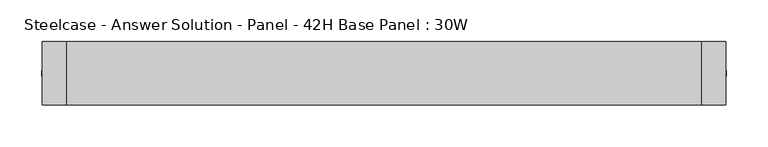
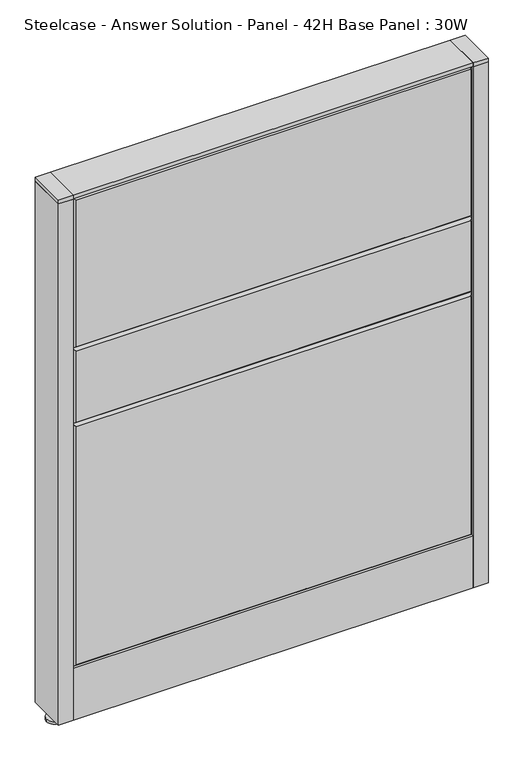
"""IFC4 building model written with IfcOpenShell, lengths in millimetres: furniture geometry, Steelcase - Answer Solution - Panel - 42H Base Panel : 30W."""

from ifc_helpers import new_model, si_unit, point, frame, frame_2d, origin, place, context, project, spatial, polyline, circle_curve, trimmed, segment, composite_curve, outline, extrude, faceted_brep, source, transform, mapped, element, save


def steelcase_answer_solution_panel_42h_base_panel_30w_ffa690a1(model_context):
    return source(origin(), model_context, "Body", "SolidModel", [
        extrude(outline(composite_curve([segment(trimmed(circle_curve(frame_2d((395.224, 0.0039657)), 5.08), [point((400.304, 0.0039657))], [point((390.144, 0.0039657))], False, "CARTESIAN"), True, "CONTINUOUS"), segment(trimmed(circle_curve(frame_2d((395.224, 0.0039657)), 5.08), [point((390.144, 0.0039657))], [point((400.304, 0.0039657))], False, "CARTESIAN"), True, "CONTINUOUS")], self_intersect=False)), frame((0.0, 0.0, 5.0799671), z_axis=(0.0, 0.0, 1.0), x_axis=(1.0, 0.0, 0.0)), (0.0, 0.0, 1.0), 10.414),
        extrude(outline(composite_curve([segment(trimmed(circle_curve(frame_2d((395.224, 0.0039657)), 15.24), [point((410.464, 0.0039657))], [point((379.984, 0.0039657))], False, "CARTESIAN"), True, "CONTINUOUS"), segment(trimmed(circle_curve(frame_2d((395.224, 0.0039657)), 15.24), [point((379.984, 0.0039657))], [point((410.464, 0.0039657))], False, "CARTESIAN"), True, "CONTINUOUS")], self_intersect=False)), frame((0.0, 0.0, -3.29e-05), z_axis=(0.0, 0.0, 1.0), x_axis=(1.0, 0.0, 0.0)), (0.0, 0.0, 1.0), 5.08),
        extrude(outline(polyline([(409.575, 38.1039851), (409.575, -38.0960149), (381.0, -38.0960149), (381.0, 38.1039851), (409.575, 38.1039851)])), frame((0.0, 0.0, 1065.8348), z_axis=(0.0, 0.0, 1.0), x_axis=(1.0, 0.0, 0.0)), (0.0, 0.0, 1.0), 7.3151671),
        extrude(outline(polyline([(409.575, 38.1039851), (409.575, -38.0960149), (381.0, -38.0960149), (381.0, 38.1039851), (409.575, 38.1039851)])), frame((0.0, 0.0, 15.4939671), z_axis=(0.0, 0.0, 1.0), x_axis=(1.0, 0.0, 0.0)), (0.0, 0.0, 1.0), 1050.3408329),
        extrude(outline(composite_curve([segment(trimmed(circle_curve(frame_2d((-395.224, 0.0039657)), 5.08), [point((-400.304, 0.0039657))], [point((-390.144, 0.0039657))], False, "CARTESIAN"), True, "CONTINUOUS"), segment(trimmed(circle_curve(frame_2d((-395.224, 0.0039657)), 5.08), [point((-390.144, 0.0039657))], [point((-400.304, 0.0039657))], False, "CARTESIAN"), True, "CONTINUOUS")], self_intersect=False)), frame((0.0, 0.0, 5.0799671), z_axis=(0.0, 0.0, 1.0), x_axis=(1.0, 0.0, 0.0)), (0.0, 0.0, 1.0), 10.414),
        extrude(outline(composite_curve([segment(trimmed(circle_curve(frame_2d((-395.224, 0.0039657)), 15.24), [point((-410.464, 0.0039657))], [point((-379.984, 0.0039657))], False, "CARTESIAN"), True, "CONTINUOUS"), segment(trimmed(circle_curve(frame_2d((-395.224, 0.0039657)), 15.24), [point((-379.984, 0.0039657))], [point((-410.464, 0.0039657))], False, "CARTESIAN"), True, "CONTINUOUS")], self_intersect=False)), frame((0.0, 0.0, -3.29e-05), z_axis=(0.0, 0.0, 1.0), x_axis=(1.0, 0.0, 0.0)), (0.0, 0.0, 1.0), 5.08),
        extrude(outline(polyline([(-409.575, 38.1039851), (-381.0, 38.1039851), (-381.0, -38.0960149), (-409.575, -38.0960149), (-409.575, 38.1039851)])), frame((0.0, 0.0, 1065.8348), z_axis=(0.0, 0.0, 1.0), x_axis=(1.0, 0.0, 0.0)), (0.0, 0.0, 1.0), 7.3151671),
        extrude(outline(polyline([(-409.575, 38.1039851), (-381.0, 38.1039851), (-381.0, -38.0960149), (-409.575, -38.0960149), (-409.575, 38.1039851)])), frame((0.0, 0.0, 15.4939671), z_axis=(0.0, 0.0, 1.0), x_axis=(1.0, 0.0, 0.0)), (0.0, 0.0, 1.0), 1050.3408329),
        faceted_brep([(-376.174, 38.1635011, 1061.974), (376.174, 38.1635011, 1061.974), (376.174, 38.1635011, 766.826), (-376.174, 38.1635011, 766.826), (-381.0, 33.3375011, 1066.8), (-381.0, 33.3375011, 762.0), (381.0, 33.3375011, 762.0), (381.0, 33.3375011, 1066.8)], [[[0, 1, 2, 3]], [[4, 5, 6, 7]], [[4, 7, 1, 0]], [[7, 6, 2, 1]], [[6, 5, 3, 2]], [[5, 4, 0, 3]]]),
        faceted_brep([(-376.174, 38.1635011, 757.174), (376.174, 38.1635011, 757.174), (376.174, 38.1635011, 614.426), (-376.174, 38.1635011, 614.426), (-381.0, 33.3375011, 762.0), (-381.0, 33.3375011, 609.6), (381.0, 33.3375011, 609.6), (381.0, 33.3375011, 762.0)], [[[0, 1, 2, 3]], [[4, 5, 6, 7]], [[4, 7, 1, 0]], [[7, 6, 2, 1]], [[6, 5, 3, 2]], [[5, 4, 0, 3]]]),
        faceted_brep([(-376.174, 38.1635011, 604.774), (376.174, 38.1635011, 604.774), (376.174, 38.1635011, 125.476), (-376.174, 38.1635011, 125.476), (-381.0, 33.3375011, 609.6), (-381.0, 33.3375011, 120.65), (381.0, 33.3375011, 120.65), (381.0, 33.3375011, 609.6)], [[[0, 1, 2, 3]], [[4, 5, 6, 7]], [[4, 7, 1, 0]], [[7, 6, 2, 1]], [[6, 5, 3, 2]], [[5, 4, 0, 3]]]),
        faceted_brep([(376.174, -38.1635011, 1061.974), (-376.174, -38.1635011, 1061.974), (-376.174, -38.1635011, 766.826), (376.174, -38.1635011, 766.826), (381.0, -33.3375011, 1066.8), (381.0, -33.3375011, 762.0), (-381.0, -33.3375011, 762.0), (-381.0, -33.3375011, 1066.8)], [[[0, 1, 2, 3]], [[4, 5, 6, 7]], [[4, 7, 1, 0]], [[7, 6, 2, 1]], [[6, 5, 3, 2]], [[5, 4, 0, 3]]]),
        faceted_brep([(376.174, -38.1635011, 757.174), (-376.174, -38.1635011, 757.174), (-376.174, -38.1635011, 614.426), (376.174, -38.1635011, 614.426), (381.0, -33.3375011, 762.0), (381.0, -33.3375011, 609.6), (-381.0, -33.3375011, 609.6), (-381.0, -33.3375011, 762.0)], [[[0, 1, 2, 3]], [[4, 5, 6, 7]], [[4, 7, 1, 0]], [[7, 6, 2, 1]], [[6, 5, 3, 2]], [[5, 4, 0, 3]]]),
        faceted_brep([(376.174, -38.1635011, 604.774), (-376.174, -38.1635011, 604.774), (-376.174, -38.1635011, 125.476), (376.174, -38.1635011, 125.476), (381.0, -33.3375011, 609.6), (381.0, -33.3375011, 120.65), (-381.0, -33.3375011, 120.65), (-381.0, -33.3375011, 609.6)], [[[0, 1, 2, 3]], [[4, 5, 6, 7]], [[4, 7, 1, 0]], [[7, 6, 2, 1]], [[6, 5, 3, 2]], [[5, 4, 0, 3]]]),
        extrude(outline(polyline([(381.0, 38.1000194), (381.0, -38.1000194), (-381.0, -38.1000194), (-381.0, 38.1000194), (381.0, 38.1000194)])), frame((0.0, 0.0, 1066.8), z_axis=(0.0, 0.0, 1.0), x_axis=(1.0, 0.0, 0.0)), (0.0, 0.0, 1.0), 6.35),
        extrude(outline(polyline([(25.4000011, 119.8575157), (25.4000011, 120.65), (38.1000194, 120.65), (38.1000194, 15.494), (37.3075215, 15.494), (37.3075215, 119.8575157), (25.4000011, 119.8575157)])), frame((-381.0, 0.0, 0.0), z_axis=(1.0, 0.0, 0.0), x_axis=(0.0, 1.0, 0.0)), (0.0, 0.0, 1.0), 762.0),
        extrude(outline(polyline([(-25.4000011, 119.8575157), (-37.3075215, 119.8575157), (-37.3075215, 15.494), (-38.1000194, 15.494), (-38.1000194, 120.65), (-25.4000011, 120.65), (-25.4000011, 119.8575157)])), frame((-381.0, 0.0, 0.0), z_axis=(1.0, 0.0, 0.0), x_axis=(0.0, 1.0, 0.0)), (0.0, 0.0, 1.0), 762.0),
    ])


if __name__ == "__main__":
    model = new_model("IFC4")
    model_context = context("Model", 3, world=origin())
    ifc_project = project(units=[si_unit("LENGTHUNIT", "METRE", prefix="MILLI")], contexts=[model_context])
    site = spatial("IfcSite", under=ifc_project)
    building = spatial("IfcBuilding", under=site)
    placement = place(None, origin())
    steelcase_answer_solution_panel_42h_base_panel_30w_shape = steelcase_answer_solution_panel_42h_base_panel_30w_ffa690a1(model_context)
    element("IfcFurniture", 1, ObjectType="Steelcase - Answer Solution - Panel - 42H Base Panel : 30W", at=placement, inside=building, context=model_context, shape_type="MappedRepresentation", body=[
        mapped(steelcase_answer_solution_panel_42h_base_panel_30w_shape, transform((0.0, 0.0, 0.0), x_axis=(1.0, 0.0, 0.0), y_axis=(0.0, 1.0, 0.0), z_axis=(0.0, 0.0, 1.0))),
    ])
    save(model, "model.ifc")
